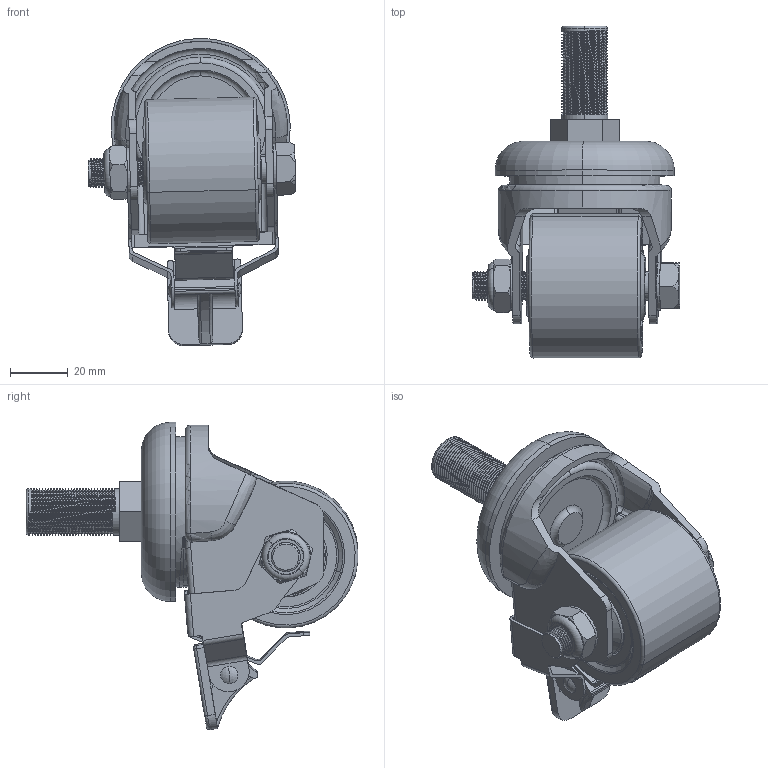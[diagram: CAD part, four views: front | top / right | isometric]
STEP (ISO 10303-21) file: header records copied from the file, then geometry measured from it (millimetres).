
FILE_DESCRIPTION (( 'STEP AP214' ), '1' );
FILE_NAME ('MXN50-T16-B.step', '2024-01-17T23:01:56', ( '' ), ( '' ), 'SwSTEP 2.0', 'SolidWorks 2022', '' );
FILE_SCHEMA (( 'AUTOMOTIVE_DESIGN' ));
Length unit declared in the file: millimetre
Products named in the file (8): MXN50; MXN50 T16; MXN50-P; MXN 16MM STEM BOLT; M10X65; M10-Nyloc; MXN50-T16-B; MXN-TB-50
Assembly tree (7 placements, depth 2):
  MXN50-T16-B
    MXN50-P
    M10X65
    M10-Nyloc
    MXN50
    MXN-TB-50
    MXN50 T16
    MXN 16MM STEM BOLT
Bounding box: 71.77 x 114.8 x 106.31 mm (x, y, z)
Volume: 154250.7 mm3; surface area: 57802.6 mm2
Topology: 7 solids, 7 shells, 945 faces, 2538 edges, 1650 vertices
Faces by surface type: plane 412, cylinder 309, bspline 136, torus 45, cone 31, sphere 12
Entity records: 48271 total; most frequent: CARTESIAN_POINT 24950, ORIENTED_EDGE 5072, DIRECTION 3944, EDGE_CURVE 2536, VERTEX_POINT 1650, LINE 1424, VECTOR 1424, AXIS2_PLACEMENT_3D 1260
